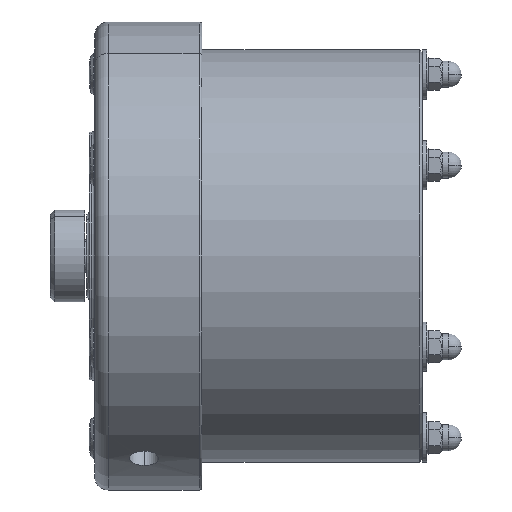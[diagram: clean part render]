
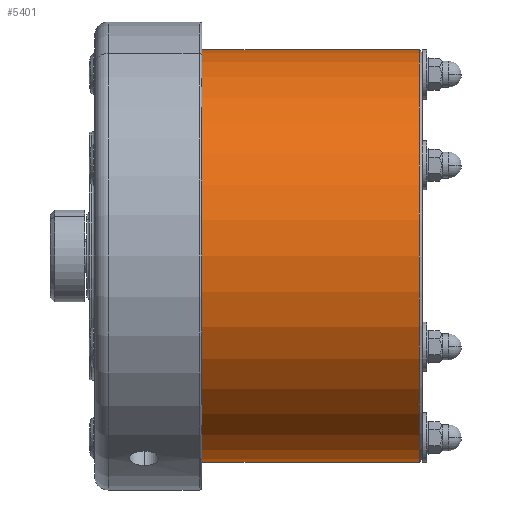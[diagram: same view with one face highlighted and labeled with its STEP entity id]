
A CAD part, front view. The second image highlights one B-rep face of the part: STEP entity #5401.
In plain terms, the highlighted cylindrical face has radius 75 mm (diameter 150 mm), a partial arc.
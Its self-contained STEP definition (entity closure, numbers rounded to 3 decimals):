
#187 = LINE ( 'NONE', #1681, #6981 ) ;
#280 = VERTEX_POINT ( 'NONE', #1473 ) ;
#321 = VERTEX_POINT ( 'NONE', #5125 ) ;
#1172 = DIRECTION ( 'NONE',  ( 0., 0., 1. ) ) ;
#1245 = CARTESIAN_POINT ( 'NONE',  ( 101.58, -17.429, 31.485 ) ) ;
#1473 = CARTESIAN_POINT ( 'NONE',  ( 180.58, -17.429, 31.485 ) ) ;
#1681 = CARTESIAN_POINT ( 'NONE',  ( 56.432, -17.429, 31.485 ) ) ;
#1730 = ORIENTED_EDGE ( 'NONE', *, *, #2767, .T. ) ;
#1927 = DIRECTION ( 'NONE',  ( 0., 0., 1. ) ) ;
#2439 = EDGE_CURVE ( 'NONE', #7422, #7724, #5316, .T. ) ;
#2537 = DIRECTION ( 'NONE',  ( -1., 0., 0. ) ) ;
#2767 = EDGE_CURVE ( 'NONE', #280, #7724, #187, .T. ) ;
#2854 = CARTESIAN_POINT ( 'NONE',  ( 180.58, -17.429, -43.515 ) ) ;
#3063 = CARTESIAN_POINT ( 'NONE',  ( 101.58, -17.429, -118.515 ) ) ;
#3076 = CIRCLE ( 'NONE', #4384, 75. ) ;
#3270 = CARTESIAN_POINT ( 'NONE',  ( 101.58, -17.429, -43.515 ) ) ;
#3388 = CARTESIAN_POINT ( 'NONE',  ( 56.432, -17.429, -43.515 ) ) ;
#3576 = DIRECTION ( 'NONE',  ( 0., 0., -1. ) ) ;
#3745 = AXIS2_PLACEMENT_3D ( 'NONE', #3388, #2537, #1172 ) ;
#4384 = AXIS2_PLACEMENT_3D ( 'NONE', #2854, #7003, #3576 ) ;
#4523 = CYLINDRICAL_SURFACE ( 'NONE', #3745, 75. ) ;
#4670 = VECTOR ( 'NONE', #5112, 1000. ) ;
#5106 = DIRECTION ( 'NONE',  ( -1., 0., 0. ) ) ;
#5112 = DIRECTION ( 'NONE',  ( -1., 0., 0. ) ) ;
#5125 = CARTESIAN_POINT ( 'NONE',  ( 180.58, -17.429, -118.515 ) ) ;
#5147 = FACE_OUTER_BOUND ( 'NONE', #7286, .T. ) ;
#5288 = ORIENTED_EDGE ( 'NONE', *, *, #6156, .T. ) ;
#5316 = CIRCLE ( 'NONE', #7024, 75. ) ;
#5401 = ADVANCED_FACE ( 'NONE', ( #5147 ), #4523, .T. ) ;
#5791 = LINE ( 'NONE', #8516, #4670 ) ;
#6156 = EDGE_CURVE ( 'NONE', #321, #280, #3076, .T. ) ;
#6981 = VECTOR ( 'NONE', #5106, 1000. ) ;
#7003 = DIRECTION ( 'NONE',  ( -1., 0., 0. ) ) ;
#7024 = AXIS2_PLACEMENT_3D ( 'NONE', #3270, #8091, #1927 ) ;
#7175 = ORIENTED_EDGE ( 'NONE', *, *, #2439, .F. ) ;
#7286 = EDGE_LOOP ( 'NONE', ( #8266, #5288, #1730, #7175 ) ) ;
#7422 = VERTEX_POINT ( 'NONE', #3063 ) ;
#7724 = VERTEX_POINT ( 'NONE', #1245 ) ;
#7886 = EDGE_CURVE ( 'NONE', #321, #7422, #5791, .T. ) ;
#8091 = DIRECTION ( 'NONE',  ( -1., 0., 0. ) ) ;
#8266 = ORIENTED_EDGE ( 'NONE', *, *, #7886, .F. ) ;
#8516 = CARTESIAN_POINT ( 'NONE',  ( 56.432, -17.429, -118.515 ) ) ;
